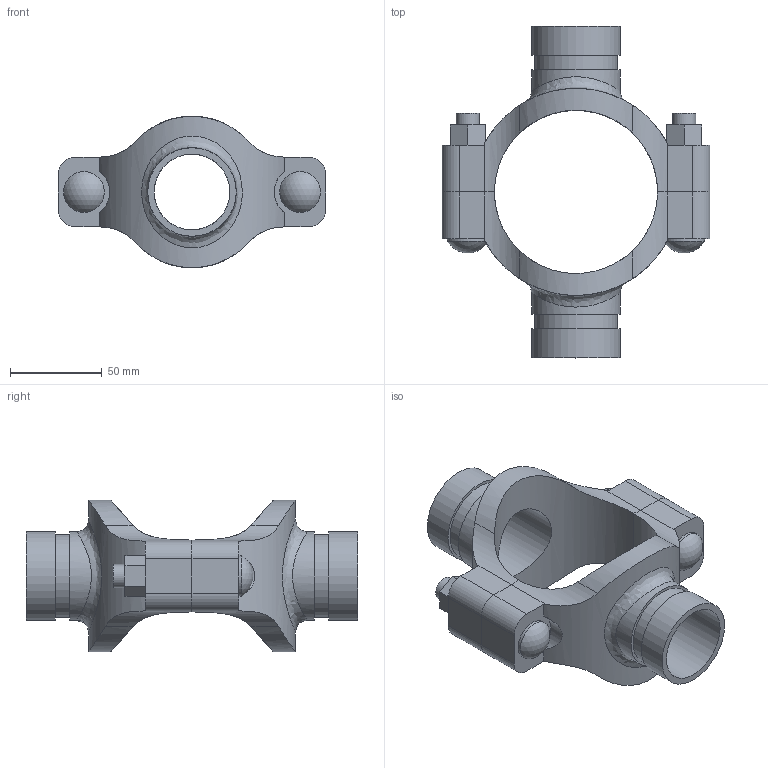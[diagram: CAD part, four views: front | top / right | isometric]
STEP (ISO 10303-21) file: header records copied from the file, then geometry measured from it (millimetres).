
FILE_DESCRIPTION(/* description */ ('VIC MECH-T BRANCH OUTLET CROSS STYLE 920N (GRVD)','CAx-IF Rec.Pracs.---Representation and Presentation of Product Manufacturing Information (PMI)---4.0---2014-10-13'),/* implementation_level */ '2;1');
FILE_NAME(/* name */ 'C:\Users\Vjadhav\AppData\Roaming\Autodesk\ApplicationPlugins\Back Up\Victaulic_IPS_Mechanical-Cross Outlet_Style 920N (OGS)\Victaulic_IPS_Mechanical-Cross Outlet_03.0x01.5x01.5 (80x40x40).stp',/* time_stamp */ '2020-08-06T19:43:29+05:00',/* author */ ('Vjadhav'),/* organization */ ('Victaulic'),/* preprocessor_version */ 'ST-DEVELOPER v17.2',/* originating_system */ 'Autodesk Inventor 2019',/* authorisation */ '');
FILE_SCHEMA (('AP242_MANAGED_MODEL_BASED_3D_ENGINEERING_MIM_LF { 1 0 10303 442 1 1 4 }'));
Length unit declared in the file: inch
Products named in the file (3): 920NG-03.0x01.5x01.5; 920NG-03.0x01.5; 920NG-03.0x01.5_1
Assembly tree (2 placements, depth 2):
  920NG-03.0x01.5x01.5
    920NG-03.0x01.5
    920NG-03.0x01.5_1
Bounding box: 146.05 x 180.85 x 82.52 mm (x, y, z)
Volume: 276110 mm3; surface area: 84428.7 mm2
Topology: 2 solids, 2 shells, 108 faces, 274 edges, 186 vertices
Faces by surface type: plane 54, cylinder 50, sphere 2, bspline 2
Full cylindrical faces by diameter (mm): 12.7 x4, 22.225 x2, 41.275 x2, 45.085 x2, 48.26 x4
Entity records: 4398 total; most frequent: CARTESIAN_POINT 1517, DIRECTION 552, ORIENTED_EDGE 548, EDGE_CURVE 274, AXIS2_PLACEMENT_3D 201, VERTEX_POINT 186, LINE 150, VECTOR 150
